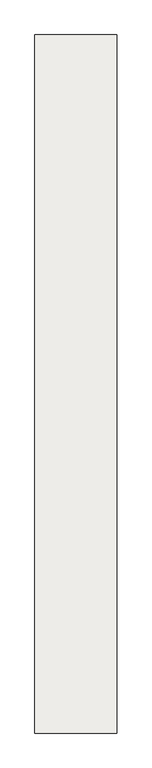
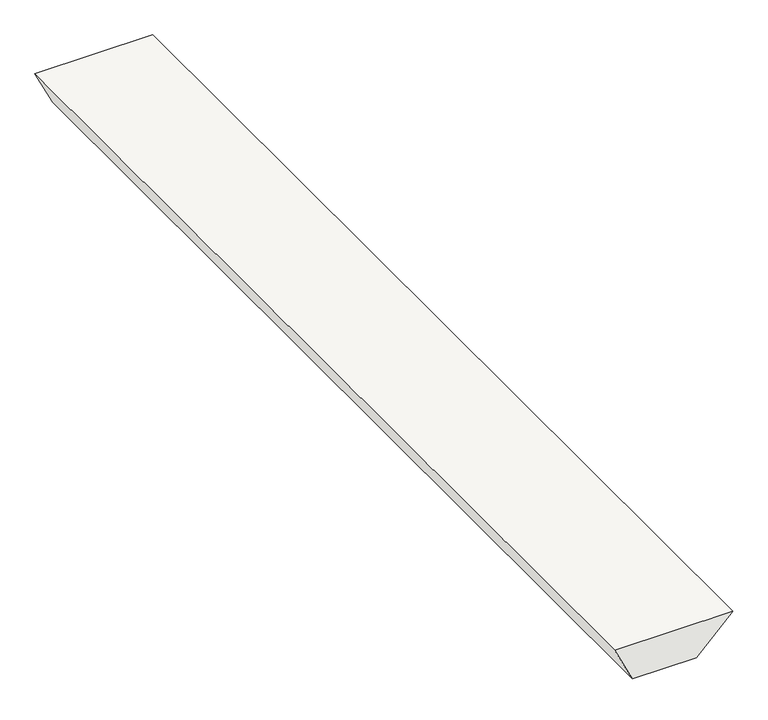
"""IFC4 building model written with IfcOpenShell, lengths in millimetres: slab geometry, Fundamente 1 : Fundamente 1."""

from ifc_helpers import new_model, si_unit, frame, origin, place, context, project, spatial, polyline, outline, extrude, source, transform, mapped, element, save


def slab_e44be637(model_context):
    return source(origin(), model_context, "Body", "SweptSolid", [
        extrude(outline(polyline([(-4500.0, -288.6802234), (-4500.0, 241.3197766), (-4200.0, 541.3197766), (-4200.0, -435.0), (-4500.0, -288.6802234)])), frame((0.0, 4172.5508443, 0.0), z_axis=(0.0, 1.0, 0.0), x_axis=(0.0, 0.0, 1.0)), (0.0, 0.0, 1.0), 8315.9212268),
    ])


if __name__ == "__main__":
    model = new_model("IFC4")
    model_context = context("Model", 3, world=origin())
    ifc_project = project(units=[si_unit("LENGTHUNIT", "METRE", prefix="MILLI")], contexts=[model_context])
    site = spatial("IfcSite", under=ifc_project)
    building = spatial("IfcBuilding", under=site)
    placement = place(None, origin())
    slab_shape = slab_e44be637(model_context)
    element("IfcSlab", 1, ObjectType="Fundamente 1 : Fundamente 1", at=placement, inside=building, context=model_context, shape_type="MappedRepresentation", body=[
        mapped(slab_shape, transform((0.0, 0.0, 0.0), x_axis=(1.0, 0.0, 0.0), y_axis=(0.0, 1.0, 0.0), z_axis=(0.0, 0.0, 1.0))),
    ])
    save(model, "model.ifc")
